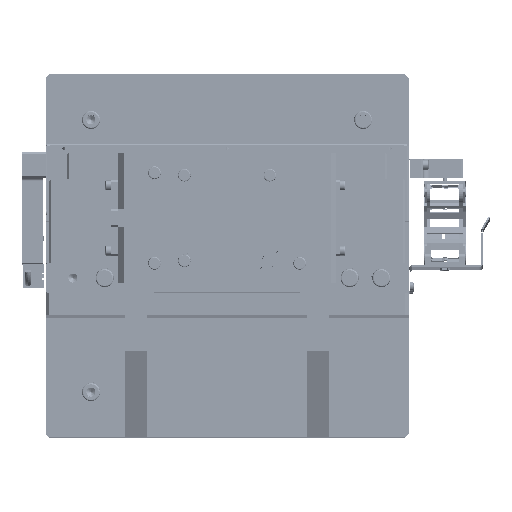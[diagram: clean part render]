
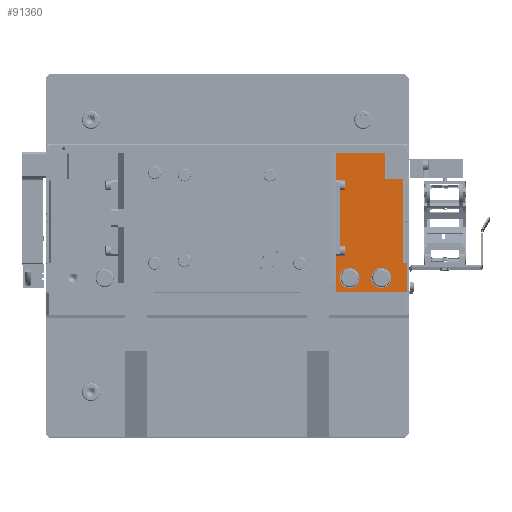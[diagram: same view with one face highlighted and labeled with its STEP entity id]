
A CAD part, top view. The second image highlights one B-rep face of the part: STEP entity #91360.
In plain terms, the highlighted planar face has unit normal (0, 0, 1).
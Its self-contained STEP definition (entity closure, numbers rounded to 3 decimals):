
#1203 = DIRECTION ( 'NONE',  ( 0., 0., -1. ) ) ;
#1649 = EDGE_CURVE ( 'NONE', #104885, #117609, #29204, .T. ) ;
#4037 = DIRECTION ( 'NONE',  ( 1., 0., 0. ) ) ;
#4746 = DIRECTION ( 'NONE',  ( 1., 0., 0. ) ) ;
#5490 = CIRCLE ( 'NONE', #60781, 5.5 ) ;
#6233 = ORIENTED_EDGE ( 'NONE', *, *, #134609, .F. ) ;
#7153 = DIRECTION ( 'NONE',  ( 1., 0., 0. ) ) ;
#7363 = DIRECTION ( 'NONE',  ( 0., 1., 0. ) ) ;
#8178 = CARTESIAN_POINT ( 'NONE',  ( -60., 26., 528. ) ) ;
#12190 = EDGE_CURVE ( 'NONE', #30664, #53732, #43356, .T. ) ;
#13406 = FACE_OUTER_BOUND ( 'NONE', #90792, .T. ) ;
#13674 = CARTESIAN_POINT ( 'NONE',  ( 87., 77., 528. ) ) ;
#13801 = LINE ( 'NONE', #51117, #79543 ) ;
#14971 = ORIENTED_EDGE ( 'NONE', *, *, #81093, .F. ) ;
#15515 = CARTESIAN_POINT ( 'NONE',  ( 60., 0.5, 528. ) ) ;
#17057 = CARTESIAN_POINT ( 'NONE',  ( 67.5, 8., 528. ) ) ;
#17822 = ORIENTED_EDGE ( 'NONE', *, *, #64871, .T. ) ;
#18131 = CARTESIAN_POINT ( 'NONE',  ( 54., 0.5, 528. ) ) ;
#18498 = DIRECTION ( 'NONE',  ( 0., 0., 1. ) ) ;
#19071 = CARTESIAN_POINT ( 'NONE',  ( 60., 56., 528. ) ) ;
#19183 = CIRCLE ( 'NONE', #117180, 5.5 ) ;
#21206 = EDGE_CURVE ( 'NONE', #35055, #59296, #102523, .T. ) ;
#21220 = DIRECTION ( 'NONE',  ( 0., 0., 1. ) ) ;
#22433 = FACE_BOUND ( 'NONE', #89139, .T. ) ;
#23707 = CARTESIAN_POINT ( 'NONE',  ( 54., 56., 528. ) ) ;
#24193 = VECTOR ( 'NONE', #143585, 1000. ) ;
#27243 = DIRECTION ( 'NONE',  ( 1., 0., 0. ) ) ;
#27697 = AXIS2_PLACEMENT_3D ( 'NONE', #96478, #51964, #4037 ) ;
#29204 = CIRCLE ( 'NONE', #135950, 5.5 ) ;
#30664 = VERTEX_POINT ( 'NONE', #106883 ) ;
#30774 = ORIENTED_EDGE ( 'NONE', *, *, #101051, .F. ) ;
#31813 = EDGE_CURVE ( 'NONE', #94059, #33543, #97309, .T. ) ;
#32027 = EDGE_CURVE ( 'NONE', #43274, #101503, #119283, .T. ) ;
#33030 = EDGE_CURVE ( 'NONE', #94059, #95131, #100537, .T. ) ;
#33543 = VERTEX_POINT ( 'NONE', #15515 ) ;
#35055 = VERTEX_POINT ( 'NONE', #37966 ) ;
#35322 = FACE_BOUND ( 'NONE', #119765, .T. ) ;
#37966 = CARTESIAN_POINT ( 'NONE',  ( 54., 26., 528. ) ) ;
#41919 = DIRECTION ( 'NONE',  ( 1., 0., 0. ) ) ;
#43089 = CARTESIAN_POINT ( 'NONE',  ( 79.5, 8., 528. ) ) ;
#43274 = VERTEX_POINT ( 'NONE', #19071 ) ;
#43356 = LINE ( 'NONE', #130362, #109232 ) ;
#46122 = ORIENTED_EDGE ( 'NONE', *, *, #106292, .F. ) ;
#46462 = VECTOR ( 'NONE', #120575, 1000. ) ;
#51117 = CARTESIAN_POINT ( 'NONE',  ( 88., 62.5, 528. ) ) ;
#51471 = ORIENTED_EDGE ( 'NONE', *, *, #12190, .T. ) ;
#51964 = DIRECTION ( 'NONE',  ( 0., 0., 1. ) ) ;
#53463 = LINE ( 'NONE', #136648, #143193 ) ;
#53732 = VERTEX_POINT ( 'NONE', #13674 ) ;
#55124 = CARTESIAN_POINT ( 'NONE',  ( 100., 0.5, 528. ) ) ;
#55161 = LINE ( 'NONE', #85219, #24193 ) ;
#59296 = VERTEX_POINT ( 'NONE', #23707 ) ;
#60781 = AXIS2_PLACEMENT_3D ( 'NONE', #125990, #21220, #68632 ) ;
#64727 = VERTEX_POINT ( 'NONE', #132946 ) ;
#64871 = EDGE_CURVE ( 'NONE', #35055, #83649, #88337, .T. ) ;
#65340 = EDGE_CURVE ( 'NONE', #67640, #95131, #81205, .T. ) ;
#67640 = VERTEX_POINT ( 'NONE', #123030 ) ;
#68632 = DIRECTION ( 'NONE',  ( 1., 0., 0. ) ) ;
#69207 = ORIENTED_EDGE ( 'NONE', *, *, #32027, .F. ) ;
#71209 = CARTESIAN_POINT ( 'NONE',  ( 62., 8., 528. ) ) ;
#72398 = ORIENTED_EDGE ( 'NONE', *, *, #33030, .T. ) ;
#73383 = CARTESIAN_POINT ( 'NONE',  ( 60., 77., 528. ) ) ;
#73890 = DIRECTION ( 'NONE',  ( 0., 1., 0. ) ) ;
#75636 = CARTESIAN_POINT ( 'NONE',  ( 73., 8., 528. ) ) ;
#76741 = LINE ( 'NONE', #86937, #144361 ) ;
#79543 = VECTOR ( 'NONE', #86438, 1000. ) ;
#80765 = VECTOR ( 'NONE', #103632, 1000. ) ;
#81093 = EDGE_CURVE ( 'NONE', #101503, #53732, #104621, .T. ) ;
#81205 = LINE ( 'NONE', #98462, #46462 ) ;
#81219 = ORIENTED_EDGE ( 'NONE', *, *, #1649, .F. ) ;
#82560 = VECTOR ( 'NONE', #114450, 1000. ) ;
#83649 = VERTEX_POINT ( 'NONE', #129558 ) ;
#85219 = CARTESIAN_POINT ( 'NONE',  ( 60., 77., 528. ) ) ;
#86438 = DIRECTION ( 'NONE',  ( 1., 0., 0. ) ) ;
#86937 = CARTESIAN_POINT ( 'NONE',  ( 97., 0.5, 528. ) ) ;
#88337 = LINE ( 'NONE', #8178, #97548 ) ;
#89139 = EDGE_LOOP ( 'NONE', ( #6233, #30774 ) ) ;
#90792 = EDGE_LOOP ( 'NONE', ( #141350, #17822, #46122, #126534, #72398, #93189, #107827, #109611, #51471, #14971, #69207, #144628 ) ) ;
#91360 = ADVANCED_FACE ( 'NONE', ( #22433, #35322, #13406 ), #105977, .F. ) ;
#93189 = ORIENTED_EDGE ( 'NONE', *, *, #65340, .F. ) ;
#94059 = VERTEX_POINT ( 'NONE', #123612 ) ;
#95131 = VERTEX_POINT ( 'NONE', #138561 ) ;
#96155 = VERTEX_POINT ( 'NONE', #102056 ) ;
#96478 = CARTESIAN_POINT ( 'NONE',  ( 85., 8., 528. ) ) ;
#97309 = LINE ( 'NONE', #55124, #82560 ) ;
#97548 = VECTOR ( 'NONE', #7153, 1000. ) ;
#98022 = EDGE_CURVE ( 'NONE', #30664, #96155, #13801, .T. ) ;
#98462 = CARTESIAN_POINT ( 'NONE',  ( 98., 16.5, 528. ) ) ;
#99204 = EDGE_CURVE ( 'NONE', #117609, #104885, #5490, .T. ) ;
#99542 = EDGE_CURVE ( 'NONE', #67640, #96155, #76741, .T. ) ;
#100537 = LINE ( 'NONE', #143900, #147928 ) ;
#101051 = EDGE_CURVE ( 'NONE', #134139, #64727, #120202, .T. ) ;
#101503 = VERTEX_POINT ( 'NONE', #73383 ) ;
#102056 = CARTESIAN_POINT ( 'NONE',  ( 97., 62.5, 528. ) ) ;
#102523 = LINE ( 'NONE', #18131, #133664 ) ;
#103632 = DIRECTION ( 'NONE',  ( 0., 1., 0. ) ) ;
#104621 = LINE ( 'NONE', #144825, #146691 ) ;
#104885 = VERTEX_POINT ( 'NONE', #71209 ) ;
#105977 = PLANE ( 'NONE',  #114140 ) ;
#106292 = EDGE_CURVE ( 'NONE', #33543, #83649, #55161, .T. ) ;
#106507 = CARTESIAN_POINT ( 'NONE',  ( 0., 0.5, 528. ) ) ;
#106883 = CARTESIAN_POINT ( 'NONE',  ( 87., 62.5, 528. ) ) ;
#107827 = ORIENTED_EDGE ( 'NONE', *, *, #99542, .T. ) ;
#108782 = DIRECTION ( 'NONE',  ( 0., 1., 0. ) ) ;
#109232 = VECTOR ( 'NONE', #108782, 1000. ) ;
#109611 = ORIENTED_EDGE ( 'NONE', *, *, #98022, .F. ) ;
#113994 = CARTESIAN_POINT ( 'NONE',  ( 85., 8., 528. ) ) ;
#114140 = AXIS2_PLACEMENT_3D ( 'NONE', #106507, #1203, #117773 ) ;
#114450 = DIRECTION ( 'NONE',  ( -1., 0., 0. ) ) ;
#114655 = DIRECTION ( 'NONE',  ( -1., 0., 0. ) ) ;
#117180 = AXIS2_PLACEMENT_3D ( 'NONE', #113994, #18498, #41919 ) ;
#117609 = VERTEX_POINT ( 'NONE', #75636 ) ;
#117773 = DIRECTION ( 'NONE',  ( -1., 0., 0. ) ) ;
#119283 = LINE ( 'NONE', #128726, #80765 ) ;
#119765 = EDGE_LOOP ( 'NONE', ( #122126, #81219 ) ) ;
#120202 = CIRCLE ( 'NONE', #27697, 5.5 ) ;
#120575 = DIRECTION ( 'NONE',  ( 1., 0., 0. ) ) ;
#122126 = ORIENTED_EDGE ( 'NONE', *, *, #99204, .F. ) ;
#122845 = DIRECTION ( 'NONE',  ( 0., 1., 0. ) ) ;
#123030 = CARTESIAN_POINT ( 'NONE',  ( 97., 16.5, 528. ) ) ;
#123612 = CARTESIAN_POINT ( 'NONE',  ( 99., 0.5, 528. ) ) ;
#125990 = CARTESIAN_POINT ( 'NONE',  ( 67.5, 8., 528. ) ) ;
#126534 = ORIENTED_EDGE ( 'NONE', *, *, #31813, .F. ) ;
#127269 = EDGE_CURVE ( 'NONE', #43274, #59296, #53463, .T. ) ;
#128726 = CARTESIAN_POINT ( 'NONE',  ( 60., 77., 528. ) ) ;
#129558 = CARTESIAN_POINT ( 'NONE',  ( 60., 26., 528. ) ) ;
#130362 = CARTESIAN_POINT ( 'NONE',  ( 87., 0.5, 528. ) ) ;
#132946 = CARTESIAN_POINT ( 'NONE',  ( 90.5, 8., 528. ) ) ;
#133664 = VECTOR ( 'NONE', #7363, 1000. ) ;
#134139 = VERTEX_POINT ( 'NONE', #43089 ) ;
#134609 = EDGE_CURVE ( 'NONE', #64727, #134139, #19183, .T. ) ;
#135950 = AXIS2_PLACEMENT_3D ( 'NONE', #17057, #143750, #27243 ) ;
#136648 = CARTESIAN_POINT ( 'NONE',  ( -60., 56., 528. ) ) ;
#138561 = CARTESIAN_POINT ( 'NONE',  ( 99., 16.5, 528. ) ) ;
#141350 = ORIENTED_EDGE ( 'NONE', *, *, #21206, .F. ) ;
#143193 = VECTOR ( 'NONE', #114655, 1000. ) ;
#143585 = DIRECTION ( 'NONE',  ( 0., 1., 0. ) ) ;
#143750 = DIRECTION ( 'NONE',  ( 0., 0., 1. ) ) ;
#143900 = CARTESIAN_POINT ( 'NONE',  ( 99., 0.5, 528. ) ) ;
#144361 = VECTOR ( 'NONE', #122845, 1000. ) ;
#144628 = ORIENTED_EDGE ( 'NONE', *, *, #127269, .T. ) ;
#144825 = CARTESIAN_POINT ( 'NONE',  ( 88., 77., 528. ) ) ;
#146691 = VECTOR ( 'NONE', #4746, 1000. ) ;
#147928 = VECTOR ( 'NONE', #73890, 1000. ) ;
